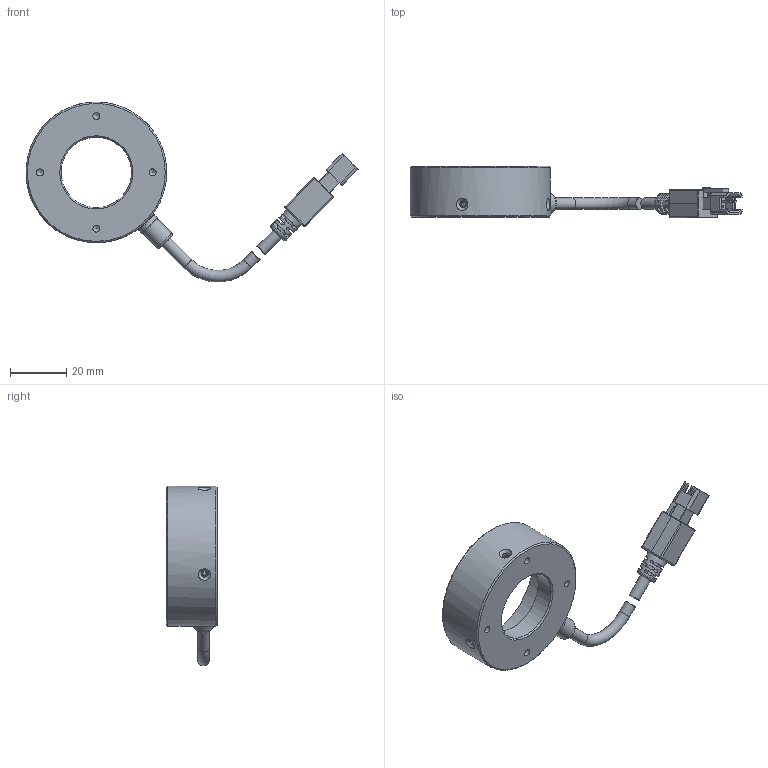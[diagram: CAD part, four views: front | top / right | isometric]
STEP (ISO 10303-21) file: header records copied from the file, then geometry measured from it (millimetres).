
FILE_DESCRIPTION (( 'STEP AP203' ), '1' );
FILE_NAME ('OPT-RI5030-X-V5.0尨砩芞.STEP', '2024-12-12T01:31:44', ( '' ), ( '' ), 'SwSTEP 2.0', 'SolidWorks 2016', '' );
FILE_SCHEMA (( 'CONFIG_CONTROL_DESIGN' ));
Length unit declared in the file: millimetre
Products named in the file (1): OPT-RI5030-X-V5.0尨砩芞
Bounding box: 117.95 x 18.2 x 63.94 mm (x, y, z)
Volume: 21078.9 mm3; surface area: 13566 mm2
Topology: 7 solids, 10 shells, 373 faces, 947 edges, 598 vertices
Faces by surface type: plane 174, cylinder 120, cone 38, bspline 27, torus 14
Full cylindrical faces by diameter (mm): 1.1 x4, 1.6 x4, 2.4 x4, 2.5 x4, 3.5 x1, 4.1 x4, 5.8 x1, 7.5 x2, 8 x1, 25 x1, 27.6 x1, 41.8 x1, 50 x1
Entity records: 12271 total; most frequent: CARTESIAN_POINT 3858, ORIENTED_EDGE 1690, DIRECTION 1662, EDGE_CURVE 845, AXIS2_PLACEMENT_3D 585, VERTEX_POINT 567, LINE 492, VECTOR 492
